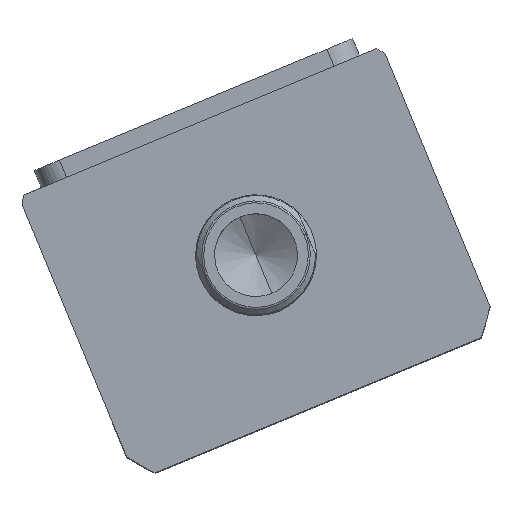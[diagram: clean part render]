
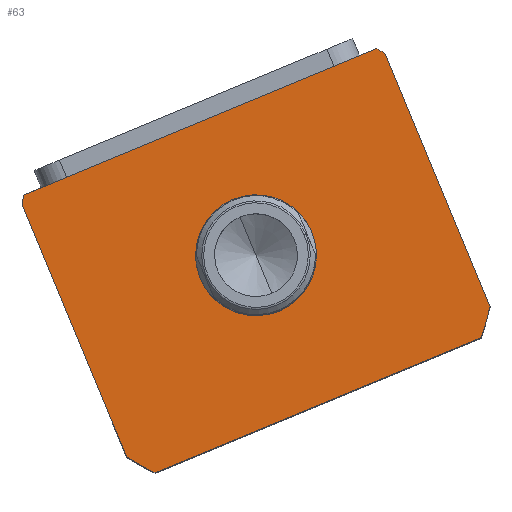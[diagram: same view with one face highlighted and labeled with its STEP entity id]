
A CAD part, top view. The second image highlights one B-rep face of the part: STEP entity #63.
In plain terms, the highlighted planar face has unit normal (0, 0, 1) as drawn and (0, 0, -1) by its records, which use the part's own axes.
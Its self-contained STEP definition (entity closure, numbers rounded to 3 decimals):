
#63 = ADVANCED_FACE ( 'NONE', ( #3495, #18480 ), #18339, .F. ) ;
#65 = ORIENTED_EDGE ( 'NONE', *, *, #8557, .F. ) ;
#145 = EDGE_CURVE ( 'NONE', #14130, #4814, #14655, .T. ) ;
#246 = ORIENTED_EDGE ( 'NONE', *, *, #1615, .F. ) ;
#365 = EDGE_CURVE ( 'NONE', #4814, #14130, #17132, .T. ) ;
#515 = AXIS2_PLACEMENT_3D ( 'NONE', #12794, #9858, #4959 ) ;
#1589 = VERTEX_POINT ( 'NONE', #8407 ) ;
#1594 = ORIENTED_EDGE ( 'NONE', *, *, #14390, .F. ) ;
#1615 = EDGE_CURVE ( 'NONE', #10059, #1589, #17553, .T. ) ;
#1639 = CARTESIAN_POINT ( 'NONE',  ( 57., -17.497, 0. ) ) ;
#1663 = CARTESIAN_POINT ( 'NONE',  ( -57., -19.732, 0. ) ) ;
#1968 = ORIENTED_EDGE ( 'NONE', *, *, #365, .T. ) ;
#2002 = DIRECTION ( 'NONE',  ( 1., 0., 0. ) ) ;
#2006 = VERTEX_POINT ( 'NONE', #10649 ) ;
#2133 = CARTESIAN_POINT ( 'NONE',  ( 0., -59.497, 0. ) ) ;
#2617 = CARTESIAN_POINT ( 'NONE',  ( 0., -59.497, 0. ) ) ;
#2797 = CARTESIAN_POINT ( 'NONE',  ( 0., -59.497, 0. ) ) ;
#2823 = ORIENTED_EDGE ( 'NONE', *, *, #9511, .F. ) ;
#2934 = EDGE_LOOP ( 'NONE', ( #14565, #16139, #1594, #11103, #65, #17035, #2823, #246 ) ) ;
#3245 = CIRCLE ( 'NONE', #6026, 69.5 ) ;
#3495 = FACE_BOUND ( 'NONE', #17656, .T. ) ;
#3719 = VECTOR ( 'NONE', #10350, 1000. ) ;
#4063 = DIRECTION ( 'NONE',  ( 1., 0., 0. ) ) ;
#4109 = CARTESIAN_POINT ( 'NONE',  ( -57., -17.497, 0. ) ) ;
#4233 = DIRECTION ( 'NONE',  ( 1., 0., 0. ) ) ;
#4789 = DIRECTION ( 'NONE',  ( 0., 0., 1. ) ) ;
#4808 = ORIENTED_EDGE ( 'NONE', *, *, #145, .T. ) ;
#4814 = VERTEX_POINT ( 'NONE', #14135 ) ;
#4948 = AXIS2_PLACEMENT_3D ( 'NONE', #2797, #12944, #4233 ) ;
#4959 = DIRECTION ( 'NONE',  ( 1., 0., 0. ) ) ;
#6026 = AXIS2_PLACEMENT_3D ( 'NONE', #2617, #12767, #4063 ) ;
#6346 = AXIS2_PLACEMENT_3D ( 'NONE', #2133, #15235, #12927 ) ;
#6952 = CARTESIAN_POINT ( 'NONE',  ( -57., -17.497, 0. ) ) ;
#7154 = AXIS2_PLACEMENT_3D ( 'NONE', #13498, #4789, #14947 ) ;
#7599 = LINE ( 'NONE', #1639, #3719 ) ;
#7649 = DIRECTION ( 'NONE',  ( 1., 0., 0. ) ) ;
#7907 = CARTESIAN_POINT ( 'NONE',  ( 57., -19.732, 0. ) ) ;
#8302 = DIRECTION ( 'NONE',  ( 0., 0., 1. ) ) ;
#8407 = CARTESIAN_POINT ( 'NONE',  ( -55.374, -17.497, 0. ) ) ;
#8557 = EDGE_CURVE ( 'NONE', #2006, #12688, #9668, .T. ) ;
#8564 = CARTESIAN_POINT ( 'NONE',  ( 51.198, -106.497, 0. ) ) ;
#9449 = CIRCLE ( 'NONE', #17910, 69.5 ) ;
#9511 = EDGE_CURVE ( 'NONE', #1589, #18586, #3245, .T. ) ;
#9668 = CIRCLE ( 'NONE', #4948, 69.5 ) ;
#9858 = DIRECTION ( 'NONE',  ( 0., 0., 1. ) ) ;
#9874 = VECTOR ( 'NONE', #18521, 1000. ) ;
#9914 = DIRECTION ( 'NONE',  ( 0., -1., 0. ) ) ;
#10059 = VERTEX_POINT ( 'NONE', #14337 ) ;
#10350 = DIRECTION ( 'NONE',  ( 0., 1., 0. ) ) ;
#10649 = CARTESIAN_POINT ( 'NONE',  ( -57., -99.262, 0. ) ) ;
#10692 = VERTEX_POINT ( 'NONE', #14253 ) ;
#11103 = ORIENTED_EDGE ( 'NONE', *, *, #12055, .F. ) ;
#11489 = CIRCLE ( 'NONE', #7154, 69.5 ) ;
#12055 = EDGE_CURVE ( 'NONE', #12688, #14544, #14127, .T. ) ;
#12688 = VERTEX_POINT ( 'NONE', #18535 ) ;
#12767 = DIRECTION ( 'NONE',  ( 0., 0., 1. ) ) ;
#12794 = CARTESIAN_POINT ( 'NONE',  ( 0., 0., 0. ) ) ;
#12927 = DIRECTION ( 'NONE',  ( 1., 0., 0. ) ) ;
#12944 = DIRECTION ( 'NONE',  ( 0., 0., 1. ) ) ;
#13279 = LINE ( 'NONE', #4109, #17567 ) ;
#13498 = CARTESIAN_POINT ( 'NONE',  ( 0., -59.497, 0. ) ) ;
#13648 = VECTOR ( 'NONE', #7649, 1000. ) ;
#14127 = LINE ( 'NONE', #17774, #13648 ) ;
#14130 = VERTEX_POINT ( 'NONE', #15066 ) ;
#14135 = CARTESIAN_POINT ( 'NONE',  ( -17.5, -59.497, 0. ) ) ;
#14253 = CARTESIAN_POINT ( 'NONE',  ( 57., -99.262, 0. ) ) ;
#14337 = CARTESIAN_POINT ( 'NONE',  ( 55.374, -17.497, 0. ) ) ;
#14390 = EDGE_CURVE ( 'NONE', #14544, #10692, #9449, .T. ) ;
#14544 = VERTEX_POINT ( 'NONE', #8564 ) ;
#14565 = ORIENTED_EDGE ( 'NONE', *, *, #16214, .F. ) ;
#14655 = CIRCLE ( 'NONE', #18375, 17.5 ) ;
#14947 = DIRECTION ( 'NONE',  ( 1., 0., 0. ) ) ;
#15066 = CARTESIAN_POINT ( 'NONE',  ( 17.5, -59.497, 0. ) ) ;
#15235 = DIRECTION ( 'NONE',  ( 0., 0., 1. ) ) ;
#16139 = ORIENTED_EDGE ( 'NONE', *, *, #17765, .F. ) ;
#16214 = EDGE_CURVE ( 'NONE', #18125, #10059, #11489, .T. ) ;
#16974 = CARTESIAN_POINT ( 'NONE',  ( 0., -59.497, 0. ) ) ;
#17035 = ORIENTED_EDGE ( 'NONE', *, *, #17367, .F. ) ;
#17132 = CIRCLE ( 'NONE', #6346, 17.5 ) ;
#17367 = EDGE_CURVE ( 'NONE', #18586, #2006, #13279, .T. ) ;
#17553 = LINE ( 'NONE', #6952, #9874 ) ;
#17567 = VECTOR ( 'NONE', #9914, 1000. ) ;
#17656 = EDGE_LOOP ( 'NONE', ( #4808, #1968 ) ) ;
#17765 = EDGE_CURVE ( 'NONE', #10692, #18125, #7599, .T. ) ;
#17774 = CARTESIAN_POINT ( 'NONE',  ( -57., -106.497, 0. ) ) ;
#17910 = AXIS2_PLACEMENT_3D ( 'NONE', #16974, #8302, #18415 ) ;
#18125 = VERTEX_POINT ( 'NONE', #7907 ) ;
#18272 = DIRECTION ( 'NONE',  ( 0., 0., 1. ) ) ;
#18288 = CARTESIAN_POINT ( 'NONE',  ( 0., -59.497, 0. ) ) ;
#18339 = PLANE ( 'NONE',  #515 ) ;
#18375 = AXIS2_PLACEMENT_3D ( 'NONE', #18288, #18272, #2002 ) ;
#18415 = DIRECTION ( 'NONE',  ( 1., 0., 0. ) ) ;
#18480 = FACE_OUTER_BOUND ( 'NONE', #2934, .T. ) ;
#18521 = DIRECTION ( 'NONE',  ( -1., 0., 0. ) ) ;
#18535 = CARTESIAN_POINT ( 'NONE',  ( -51.198, -106.497, 0. ) ) ;
#18586 = VERTEX_POINT ( 'NONE', #1663 ) ;
